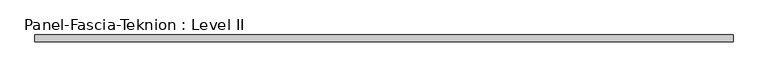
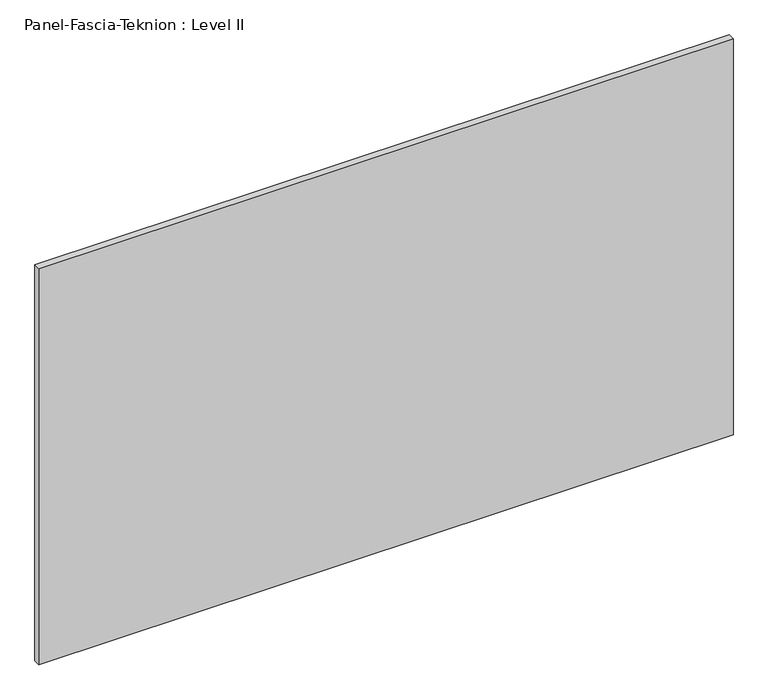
"""IFC4 building model written with IfcOpenShell, lengths in millimetres: proxy geometry, Panel-Fascia-Teknion : Level II."""

import ifcopenshell
import ifcopenshell.guid

model = None  # the IFC model being written
_history = None  # IfcOwnerHistory: only IFC2X3 demands one
_inside = {}  # id of a spatial element -> (the spatial element, [elements in it])
_under = {}  # id of a project, library or spatial element -> (it, [spatial elements below it])
_declared = {}  # id of a project -> (the project, [libraries it declares])
_typed = {}  # id of a type object -> (the type object, [elements of that type])
_made_of = {}  # id of a material, layer set ... -> (it, [elements and type objects made of it])


def new_model(schema):
    """Start an empty IFC model of exactly this schema.

    Asked for "IFC4X3", IfcOpenShell would pick the latest addendum, in which some entities
    have other attributes; the version numbers below select the first issue.
    IFC2X3 requires an IfcOwnerHistory on every rooted entity: one is made here for all.
    """
    global model, _history
    if schema == "IFC4X3":
        model = ifcopenshell.file(schema_version=(4, 3, 0, 0))
    else:
        model = ifcopenshell.file(schema=schema)
    _inside.clear()
    _under.clear()
    _declared.clear()
    _typed.clear()
    _made_of.clear()
    _history = None
    if model.schema == "IFC2X3":
        org = make("IfcOrganization", Name="unknown")
        user = make(
            "IfcPersonAndOrganization",
            ThePerson=make("IfcPerson", FamilyName="unknown"),
            TheOrganization=org,
        )
        app = make(
            "IfcApplication",
            ApplicationDeveloper=org,
            Version="unknown",
            ApplicationFullName="unknown",
            ApplicationIdentifier="unknown",
        )
        _history = make(
            "IfcOwnerHistory",
            OwningUser=user,
            OwningApplication=app,
            ChangeAction="ADDED",
            CreationDate=0,
        )
    return model


def make(cls, **values):
    """One entity of the class cls with the attributes given. An attribute that is None is left unset."""
    return model.create_entity(
        cls, **{name: value for name, value in values.items() if value is not None}
    )


def rooted(cls, **values):
    """An entity with a GlobalId (a new one), such as an element, a storey or a relation."""
    return make(cls, GlobalId=ifcopenshell.guid.new(), OwnerHistory=_history, **values)


def si_unit(unit_type, name, prefix=None):
    """IfcSIUnit, for example si_unit("LENGTHUNIT", "METRE", prefix="MILLI")."""
    return make("IfcSIUnit", UnitType=unit_type, Prefix=prefix, Name=name)


def assignment(units):
    """IfcUnitAssignment: the units of a project."""
    return None if units is None else make("IfcUnitAssignment", Units=units)


def point(xyz):
    """IfcCartesianPoint."""
    return None if xyz is None else make("IfcCartesianPoint", Coordinates=xyz)


def direction(xyz):
    """IfcDirection."""
    return None if xyz is None else make("IfcDirection", DirectionRatios=xyz)


def frame(location, z_axis=None, x_axis=None):
    """IfcAxis2Placement3D, a coordinate frame: its origin and axes. An axis left out is left unset."""
    return make(
        "IfcAxis2Placement3D",
        Location=point(location),
        Axis=direction(z_axis),
        RefDirection=direction(x_axis),
    )


def origin():
    """The frame at (0, 0, 0) with its axes left unset."""
    return frame((0.0, 0.0, 0.0))


def place(relative_to, where):
    """IfcLocalPlacement: puts the frame where relative to a parent placement (None: the world)."""
    return make(
        "IfcLocalPlacement", PlacementRelTo=relative_to, RelativePlacement=where
    )


def context(
    kind, dimensions, precision=None, world=None, true_north=None, identifier=None
):
    """IfcGeometricRepresentationContext, for example the 3D "Model" context."""
    return make(
        "IfcGeometricRepresentationContext",
        ContextIdentifier=identifier,
        ContextType=kind,
        CoordinateSpaceDimension=dimensions,
        Precision=precision,
        WorldCoordinateSystem=world,
        TrueNorth=true_north,
    )


def project(units=None, contexts=None):
    """IfcProject with its units and contexts."""
    return rooted(
        "IfcProject",
        Name="project",
        RepresentationContexts=contexts,
        UnitsInContext=assignment(units),
    )


def spatial(cls, under=None, at=None, **own):
    """A site, building, storey or space (cls), placed at a placement, below another one or the project."""
    s = rooted(cls, ObjectPlacement=at, **own)
    if under is not None:
        _under.setdefault(under.id(), (under, []))[1].append(s)
    return s


def polyline(points):
    """IfcPolyline through the points."""
    return make("IfcPolyline", Points=[point(p) for p in points])


def outline(outer, holes=None, kind="AREA"):
    """IfcArbitraryClosedProfileDef: a profile drawn as a closed curve; with holes, ...WithVoids."""
    if holes is None:
        return make("IfcArbitraryClosedProfileDef", ProfileType=kind, OuterCurve=outer)
    return make(
        "IfcArbitraryProfileDefWithVoids",
        ProfileType=kind,
        OuterCurve=outer,
        InnerCurves=holes,
    )


def extrude(swept, where, along, depth):
    """IfcExtrudedAreaSolid: the profile swept, set in the frame where, extruded along a direction by depth."""
    return make(
        "IfcExtrudedAreaSolid",
        SweptArea=swept,
        Position=where,
        ExtrudedDirection=direction(along),
        Depth=depth,
    )


def shape(context_of_items, identifier, shape_type, items):
    """IfcShapeRepresentation: the items that make up one representation, for example the "Body"."""
    return make(
        "IfcShapeRepresentation",
        ContextOfItems=context_of_items,
        RepresentationIdentifier=identifier,
        RepresentationType=shape_type,
        Items=items,
    )


def source(mapping_origin, context_of_items, identifier, shape_type, items):
    """IfcRepresentationMap: a shape defined once, which mapped items show again and again."""
    return make(
        "IfcRepresentationMap",
        MappingOrigin=mapping_origin,
        MappedRepresentation=shape(context_of_items, identifier, shape_type, items),
    )


def transform(
    local_origin,
    x_axis=None,
    y_axis=None,
    z_axis=None,
    scale=None,
    scale2=None,
    scale3=None,
    uniform=True,
):
    """IfcCartesianTransformationOperator3D, or its non-uniform kind. x_axis, y_axis, z_axis: its Axis1, 2, 3."""
    if uniform:
        return make(
            "IfcCartesianTransformationOperator3D",
            Axis1=direction(x_axis),
            Axis2=direction(y_axis),
            LocalOrigin=point(local_origin),
            Scale=scale,
            Axis3=direction(z_axis),
        )
    return make(
        "IfcCartesianTransformationOperator3DnonUniform",
        Axis1=direction(x_axis),
        Axis2=direction(y_axis),
        LocalOrigin=point(local_origin),
        Scale=scale,
        Axis3=direction(z_axis),
        Scale2=scale2,
        Scale3=scale3,
    )


def mapped(mapping_source, mapping_target):
    """IfcMappedItem: shows the shape of a source again, moved by a transform."""
    return make(
        "IfcMappedItem", MappingSource=mapping_source, MappingTarget=mapping_target
    )


def made_of(thing, what):
    """Note that an element or type object is made of a material, layer set ...; save() writes the relation."""
    if what is not None:
        _made_of.setdefault(what.id(), (what, []))[1].append(thing)
    return thing


def element(
    cls,
    number,
    at=None,
    inside=None,
    cuts=None,
    type_object=None,
    material=None,
    context=None,
    identifier="Body",
    shape_type=None,
    held_by="IfcProductDefinitionShape",
    body=None,
    shapes=None,
    **own,
):
    """One element of the class cls, such as IfcWall. Its Tag is "e" and its number.

    at: its placement. inside: the storey or other place that contains it. cuts: it is an
    opening in that element (IfcRelVoidsElement). A single representation is given by context,
    identifier, shape_type and body (its items); several are given by shapes. held_by: the class
    of the entity that holds the representations. save() writes the other relations.
    """
    e = rooted(cls, Tag="e%d" % number, ObjectPlacement=at, **own)
    if body is not None:
        shapes = [shape(context, identifier, shape_type, body)]
    if shapes is not None:
        e.Representation = make(held_by, Representations=shapes)
    if inside is not None:
        _inside.setdefault(inside.id(), (inside, []))[1].append(e)
    if cuts is not None:
        rooted(
            "IfcRelVoidsElement", RelatingBuildingElement=cuts, RelatedOpeningElement=e
        )
    if type_object is not None:
        _typed.setdefault(type_object.id(), (type_object, []))[1].append(e)
    return made_of(e, material)


def aggregate(whole, parts):
    """IfcRelAggregates: a whole, such as a stair, and the parts it consists of."""
    return rooted("IfcRelAggregates", RelatingObject=whole, RelatedObjects=parts)


def save(model, path):
    """Write the relations noted so far, then the file.

    IfcRelAggregates (storeys below a building ...), IfcRelContainedInSpatialStructure (elements
    in a storey), IfcRelDefinesByType, IfcRelAssociatesMaterial and IfcRelDeclares: one each for
    every whole, place, type object, material and project.
    """
    for whole, parts in _under.values():
        aggregate(whole, parts)
    for where, things in _inside.values():
        rooted(
            "IfcRelContainedInSpatialStructure",
            RelatedElements=things,
            RelatingStructure=where,
        )
    for kind, things in _typed.values():
        rooted("IfcRelDefinesByType", RelatedObjects=things, RelatingType=kind)
    for what, things in _made_of.values():
        rooted("IfcRelAssociatesMaterial", RelatedObjects=things, RelatingMaterial=what)
    for by, libraries in _declared.values():
        rooted("IfcRelDeclares", RelatingContext=by, RelatedDefinitions=libraries)
    model.write(path)


def panel_fascia_teknion_level_ii_750ba18f(model_context):
    return source(origin(), model_context, "Body", "SweptSolid", [
        extrude(outline(polyline([(1005.8356344, 9.525), (1005.8356344, -9.525), (-1005.8356344, -9.525), (-1005.8356344, 9.525), (1005.8356344, 9.525)])), frame((0.0, 0.0, 3.175), z_axis=(0.0, 0.0, 1.0), x_axis=(1.0, 0.0, 0.0)), (0.0, 0.0, 1.0), 1212.85),
    ])


if __name__ == "__main__":
    model = new_model("IFC4")
    model_context = context("Model", 3, world=origin())
    ifc_project = project(units=[si_unit("LENGTHUNIT", "METRE", prefix="MILLI")], contexts=[model_context])
    site = spatial("IfcSite", under=ifc_project)
    building = spatial("IfcBuilding", under=site)
    placement = place(None, origin())
    panel_fascia_teknion_level_ii_shape = panel_fascia_teknion_level_ii_750ba18f(model_context)
    element("IfcBuildingElementProxy", 1, Name="Panel-Fascia-Teknion : Level II", ObjectType="Panel-Fascia-Teknion : Level II", at=placement, inside=building, context=model_context, shape_type="MappedRepresentation", body=[
        mapped(panel_fascia_teknion_level_ii_shape, transform((0.0, 0.0, 0.0), x_axis=(1.0, 0.0, 0.0), y_axis=(0.0, 1.0, 0.0), z_axis=(0.0, 0.0, 1.0))),
    ])
    save(model, "model.ifc")
